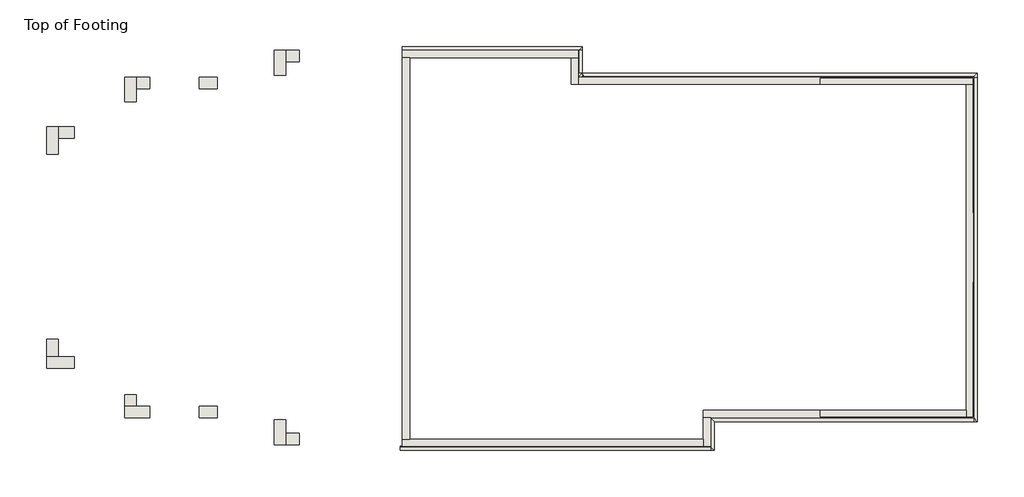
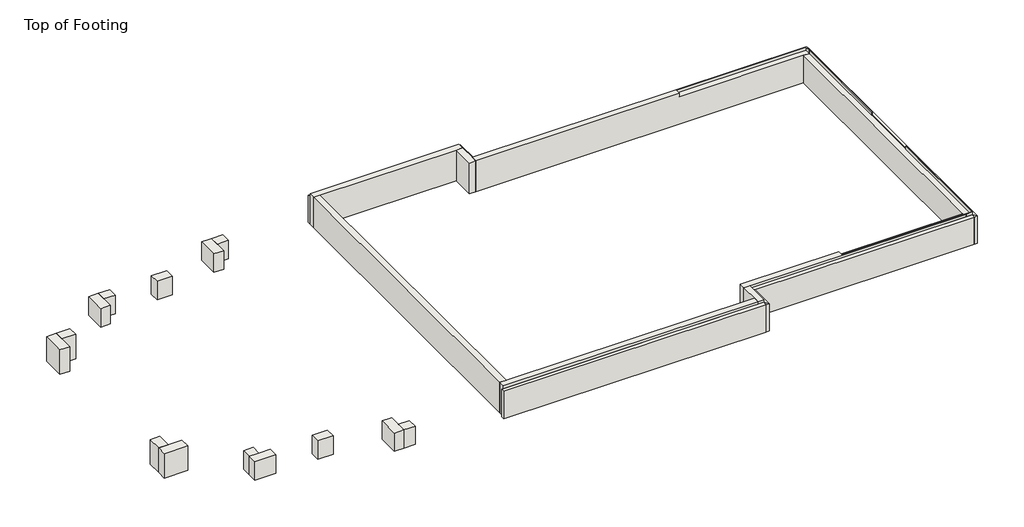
# One storey: 29 walls.
"""IFC4 building model written with IfcOpenShell, lengths in millimetres."""

from ifc_helpers import new_model, si_unit, frame, origin, place, context, project, spatial, polyline, outline, extrude, faceted_brep, element, save

model = new_model("IFC4")

# Units and contexts
model_context = context("Model", 3, world=origin())
ifc_project = project(units=[si_unit("LENGTHUNIT", "METRE", prefix="MILLI")], contexts=[model_context])

# Site, building, storey
site = spatial("IfcSite", under=ifc_project)
building = spatial("IfcBuilding", under=site)
storey = spatial("IfcBuildingStorey", under=building, Name="Top of Footing", Elevation=-1016.0)

# Walls
placement = place(None, origin())
element("IfcWall", 1, ObjectType="12\" Brick", at=placement, inside=storey, context=model_context, shape_type="Brep", body=[
    faceted_brep([(3404.7670833, 13199.4420284, -1016.0), (3404.7670833, 13618.2499284, -1016.0), (3404.7670833, 13923.0499284, -1016.0), (3404.7670833, 13923.0499284, -203.2), (3404.7670833, 13618.2499284, -203.2), (3404.7670833, 13199.4420284, -203.2), (3099.9670833, 13199.4420284, -1016.0), (3099.9670833, 13199.4420284, -203.2), (3099.9670833, 13923.0499284, -203.2), (3099.9670833, 13923.0499284, -1016.0)], [[[0, 1, 2, 3, 4, 5]], [[6, 7, 8, 9]], [[2, 1, 0, 6, 9]], [[5, 4, 3, 8, 7]], [[0, 5, 7, 6]], [[3, 2, 9, 8]]]),
])
element("IfcWall", 2, ObjectType="12\" Brick", at=placement, inside=storey, context=model_context, shape_type="SweptSolid", body=[
    extrude(outline(polyline([(3833.6206833, 13618.2499284), (3404.7670833, 13618.2499284), (3404.7670833, 13923.0499284), (3833.6206833, 13923.0499284), (3833.6206833, 13618.2499284)])), frame((0.0, 0.0, -1016.0), z_axis=(0.0, 0.0, 1.0), x_axis=(1.0, 0.0, 0.0)), (0.0, 0.0, 1.0), 812.8),
])
element("IfcWall", 3, ObjectType="12\" Brick", at=placement, inside=storey, context=model_context, shape_type="Brep", body=[
    faceted_brep([(3833.6206833, 7827.0499284, -1016.0), (3404.7670833, 7827.0499284, -1016.0), (3099.9670833, 7827.0499284, -1016.0), (3099.9670833, 7827.0499284, -203.2), (3404.7670833, 7827.0499284, -203.2), (3833.6206833, 7827.0499284, -203.2), (3833.6206833, 7522.2499284, -1016.0), (3833.6206833, 7522.2499284, -203.2), (3099.9670833, 7522.2499284, -203.2), (3099.9670833, 7522.2499284, -1016.0)], [[[0, 1, 2, 3, 4, 5]], [[6, 7, 8, 9]], [[2, 1, 0, 6, 9]], [[5, 4, 3, 8, 7]], [[0, 5, 7, 6]], [[3, 2, 9, 8]]]),
])
element("IfcWall", 4, ObjectType="12\" Brick", at=placement, inside=storey, context=model_context, shape_type="SweptSolid", body=[
    extrude(outline(polyline([(3404.7670833, 8281.8115284), (3404.7670833, 7827.0499284), (3099.9670833, 7827.0499284), (3099.9670833, 8281.8115284), (3404.7670833, 8281.8115284)])), frame((0.0, 0.0, -1016.0), z_axis=(0.0, 0.0, 1.0), x_axis=(1.0, 0.0, 0.0)), (0.0, 0.0, 1.0), 812.8),
])
element("IfcWall", 5, ObjectType="12\" Brick", at=placement, inside=storey, context=model_context, shape_type="Brep", body=[
    faceted_brep([(5487.5670833, 14585.4819284, -1016.0), (5487.5670833, 14939.0499284, -1016.0), (5487.5670833, 15243.8499284, -1016.0), (5487.5670833, 15243.8499284, -406.4), (5487.5670833, 14939.0499284, -406.4), (5487.5670833, 14585.4819284, -406.4), (5182.7670833, 14585.4819284, -1016.0), (5182.7670833, 14585.4819284, -406.4), (5182.7670833, 15243.8499284, -406.4), (5182.7670833, 15243.8499284, -1016.0)], [[[0, 1, 2, 3, 4, 5]], [[6, 7, 8, 9]], [[2, 1, 0, 6, 9]], [[5, 4, 3, 8, 7]], [[0, 5, 7, 6]], [[3, 2, 9, 8]]]),
])
element("IfcWall", 6, ObjectType="12\" Brick", at=placement, inside=storey, context=model_context, shape_type="SweptSolid", body=[
    extrude(outline(polyline([(5841.1350833, 14939.0499284), (5487.5670833, 14939.0499284), (5487.5670833, 15243.8499284), (5841.1350833, 15243.8499284), (5841.1350833, 14939.0499284)])), frame((0.0, 0.0, -1016.0), z_axis=(0.0, 0.0, 1.0), x_axis=(1.0, 0.0, 0.0)), (0.0, 0.0, 1.0), 609.6),
])
element("IfcWall", 7, ObjectType="12\" Brick", at=placement, inside=storey, context=model_context, shape_type="Brep", body=[
    faceted_brep([(5841.1350833, 6506.2499284, -1016.0), (5487.5670833, 6506.2499284, -1016.0), (5182.7670833, 6506.2499284, -1016.0), (5182.7670833, 6506.2499284, -406.4), (5487.5670833, 6506.2499284, -406.4), (5841.1350833, 6506.2499284, -406.4), (5841.1350833, 6201.4499284, -1016.0), (5841.1350833, 6201.4499284, -406.4), (5182.7670833, 6201.4499284, -406.4), (5182.7670833, 6201.4499284, -1016.0)], [[[0, 1, 2, 3, 4, 5]], [[6, 7, 8, 9]], [[2, 1, 0, 6, 9]], [[5, 4, 3, 8, 7]], [[0, 5, 7, 6]], [[3, 2, 9, 8]]]),
])
element("IfcWall", 8, ObjectType="12\" Brick", at=placement, inside=storey, context=model_context, shape_type="SweptSolid", body=[
    extrude(outline(polyline([(5487.5670833, 6811.0499284), (5487.5670833, 6506.2499284), (5182.7670833, 6506.2499284), (5182.7670833, 6811.0499284), (5487.5670833, 6811.0499284)])), frame((0.0, 0.0, -1016.0), z_axis=(0.0, 0.0, 1.0), x_axis=(1.0, 0.0, 0.0)), (0.0, 0.0, 1.0), 609.6),
])
element("IfcWall", 9, ObjectType="12\" Brick", at=placement, inside=storey, context=model_context, shape_type="Brep", body=[
    faceted_brep([(9145.1670833, 6148.6179284, -1016.0), (9145.1670833, 5490.2499284, -1016.0), (9145.1670833, 5490.2499284, -406.4), (9145.1670833, 6148.6179284, -406.4), (9449.9670833, 6148.6179284, -1016.0), (9449.9670833, 6148.6179284, -406.4), (9449.9670833, 5795.0499284, -406.4), (9449.9670833, 5490.2499284, -406.4), (9449.9670833, 5490.2499284, -1016.0), (9449.9670833, 5795.0499284, -1016.0)], [[[0, 1, 2, 3]], [[4, 5, 6, 7, 8, 9]], [[1, 0, 4, 9, 8]], [[3, 2, 7, 6, 5]], [[0, 3, 5, 4]], [[2, 1, 8, 7]]]),
])
element("IfcWall", 10, ObjectType="12\" Brick", at=placement, inside=storey, context=model_context, shape_type="SweptSolid", body=[
    extrude(outline(polyline([(9803.5350833, 5490.2499284), (9449.9670833, 5490.2499284), (9449.9670833, 5795.0499284), (9803.5350833, 5795.0499284), (9803.5350833, 5490.2499284)])), frame((0.0, 0.0, -1016.0), z_axis=(0.0, 0.0, 1.0), x_axis=(1.0, 0.0, 0.0)), (0.0, 0.0, 1.0), 609.6),
])
element("IfcWall", 11, ObjectType="12\" Brick", at=placement, inside=storey, context=model_context, shape_type="SweptSolid", body=[
    extrude(outline(polyline([(7637.3214833, 6201.4499284), (7156.6518833, 6201.4499284), (7156.6518833, 6506.2499284), (7637.3214833, 6506.2499284), (7637.3214833, 6201.4499284)])), frame((0.0, 0.0, -1016.0), z_axis=(0.0, 0.0, 1.0), x_axis=(1.0, 0.0, 0.0)), (0.0, 0.0, 1.0), 609.6),
])
element("IfcWall", 12, ObjectType="12\" Brick", at=placement, inside=storey, context=model_context, shape_type="Brep", body=[
    faceted_brep([(9449.9670833, 15296.6819284, -1016.0), (9449.9670833, 15650.2499284, -1016.0), (9449.9670833, 15955.0499284, -1016.0), (9449.9670833, 15955.0499284, -406.4), (9449.9670833, 15650.2499284, -406.4), (9449.9670833, 15296.6819284, -406.4), (9145.1670833, 15296.6819284, -1016.0), (9145.1670833, 15296.6819284, -406.4), (9145.1670833, 15955.0499284, -406.4), (9145.1670833, 15955.0499284, -1016.0)], [[[0, 1, 2, 3, 4, 5]], [[6, 7, 8, 9]], [[2, 1, 0, 6, 9]], [[5, 4, 3, 8, 7]], [[0, 5, 7, 6]], [[3, 2, 9, 8]]]),
])
element("IfcWall", 13, ObjectType="12\" Brick", at=placement, inside=storey, context=model_context, shape_type="SweptSolid", body=[
    extrude(outline(polyline([(9803.5350833, 15650.2499284), (9449.9670833, 15650.2499284), (9449.9670833, 15955.0499284), (9803.5350833, 15955.0499284), (9803.5350833, 15650.2499284)])), frame((0.0, 0.0, -1016.0), z_axis=(0.0, 0.0, 1.0), x_axis=(1.0, 0.0, 0.0)), (0.0, 0.0, 1.0), 609.6),
])
element("IfcWall", 14, ObjectType="12\" Brick", at=placement, inside=storey, context=model_context, shape_type="SweptSolid", body=[
    extrude(outline(polyline([(7637.3214833, 14939.0499284), (7156.6518833, 14939.0499284), (7156.6518833, 15243.8499284), (7637.3214833, 15243.8499284), (7637.3214833, 14939.0499284)])), frame((0.0, 0.0, -1016.0), z_axis=(0.0, 0.0, 1.0), x_axis=(1.0, 0.0, 0.0)), (0.0, 0.0, 1.0), 609.6),
])
element("IfcWall", 15, ObjectType="Brick Veneer", at=placement, inside=storey, context=model_context, shape_type="Brep", body=[
    faceted_brep([(12548.7670833, 15955.0499284, -1016.0), (17222.3670833, 15955.0499284, -1016.0), (17323.9670833, 15955.0499284, -1016.0), (17323.9670833, 15955.0499284, -107.7922288), (17226.7749916, 15955.0499284, -88.9), (17222.3670833, 15955.0499284, -88.9), (12548.7670833, 15955.0499284, -88.9), (17323.9670833, 16056.6499284, -1016.0), (12548.7670833, 16056.6499284, -1016.0), (12548.7670833, 16056.6499284, -107.7922288), (17323.9670833, 16056.6499284, -107.7922288), (17226.7749916, 15959.4578368, -88.9), (12548.7670833, 15959.4578368, -88.9)], [[[0, 1, 2, 3, 4, 5, 6]], [[7, 8, 9, 10]], [[2, 1, 0, 8, 7]], [[6, 5, 4, 11, 12]], [[0, 6, 12, 9, 8]], [[2, 7, 10, 3]], [[11, 10, 9, 12]], [[10, 11, 4, 3]]]),
])
element("IfcWall", 16, ObjectType="Brick Veneer", at=placement, inside=storey, context=model_context, shape_type="Brep", body=[
    faceted_brep([(17222.3670833, 15955.0499284, -1016.0), (17222.3670833, 15243.8499284, -1016.0), (17222.3670833, 15243.8499284, -88.9), (17222.3670833, 15248.2578368, -88.9), (17222.3670833, 15362.6918636, -111.1437215), (17222.3670833, 15367.0156051, -88.9), (17222.3670833, 15955.0499284, -88.9), (17323.9670833, 15243.8499284, -1016.0), (17323.9670833, 15955.0499284, -1016.0), (17323.9670833, 15955.0499284, -107.7922288), (17323.9670833, 15363.3433278, -107.7922288), (17323.9670833, 15362.6918636, -111.1437215), (17323.9670833, 15345.4499284, -107.7922288), (17323.9670833, 15243.8499284, -107.7922288), (17226.7749916, 15243.8499284, -88.9), (17226.7749916, 15248.2578368, -88.9), (17226.7749916, 15955.0499284, -88.9), (17226.7749916, 15367.0156051, -88.9)], [[[0, 1, 2, 3, 4, 5, 6]], [[7, 8, 9, 10, 11, 12, 13]], [[1, 0, 8, 7]], [[2, 14, 15, 3]], [[16, 6, 5, 17]], [[0, 6, 16, 9, 8]], [[2, 1, 7, 13, 14]], [[9, 16, 17, 10]], [[14, 13, 12, 15]], [[4, 11, 10, 17, 5]], [[11, 4, 3, 15, 12]]]),
])
element("IfcWall", 17, ObjectType="Brick Veneer", at=placement, inside=storey, context=model_context, shape_type="Brep", body=[
    faceted_brep([(17222.3670833, 15243.8499284, -1016.0), (27712.5670833, 15243.8499284, -1016.0), (27814.1670833, 15243.8499284, -1016.0), (27814.1670833, 15243.8499284, -107.7922288), (27716.9749916, 15243.8499284, -88.9), (27712.5670833, 15243.8499284, -88.9), (17345.53276, 15243.8499284, -88.9), (17341.2090185, 15243.8499284, -111.1437215), (17323.9670833, 15243.8499284, -107.7922288), (17226.7749916, 15243.8499284, -88.9), (17222.3670833, 15243.8499284, -88.9), (27814.1670833, 15345.4499284, -1016.0), (17222.3670833, 15345.4499284, -1016.0), (17222.3670833, 15345.4499284, -107.7922288), (17323.9670833, 15345.4499284, -107.7922288), (17341.2090185, 15345.4499284, -111.1437215), (17341.8604827, 15345.4499284, -107.7922288), (27814.1670833, 15345.4499284, -107.7922288), (17222.3670833, 15248.2578368, -88.9), (17226.7749916, 15248.2578368, -88.9), (27716.9749916, 15248.2578368, -88.9), (17345.53276, 15248.2578368, -88.9)], [[[0, 1, 2, 3, 4, 5, 6, 7, 8, 9, 10]], [[11, 12, 13, 14, 15, 16, 17]], [[2, 1, 0, 12, 11]], [[18, 10, 9, 19]], [[4, 20, 21, 6, 5]], [[0, 10, 18, 13, 12]], [[2, 11, 17, 3]], [[20, 17, 16, 21]], [[13, 18, 19, 14]], [[17, 20, 4, 3]], [[15, 7, 6, 21, 16]], [[7, 15, 14, 19, 9, 8]]]),
])
element("IfcWall", 18, ObjectType="Brick Veneer", at=placement, inside=storey, context=model_context, shape_type="Brep", body=[
    faceted_brep([(27712.5670833, 15243.8499284, -1016.0), (27712.5670833, 6201.4499284, -1016.0), (27712.5670833, 6099.8499284, -1016.0), (27712.5670833, 6099.8499284, -107.7922288), (27712.5670833, 6197.0420201, -88.9), (27712.5670833, 6201.4499284, -88.9), (27712.5670833, 15243.8499284, -88.9), (27814.1670833, 6099.8499284, -1016.0), (27814.1670833, 15243.8499284, -1016.0), (27814.1670833, 15243.8499284, -107.7922288), (27814.1670833, 6099.8499284, -107.7922288), (27716.9749916, 6197.0420201, -88.9), (27716.9749916, 15243.8499284, -88.9)], [[[0, 1, 2, 3, 4, 5, 6]], [[7, 8, 9, 10]], [[2, 1, 0, 8, 7]], [[6, 5, 4, 11, 12]], [[0, 6, 12, 9, 8]], [[2, 7, 10, 3]], [[11, 10, 9, 12]], [[10, 11, 4, 3]]]),
])
element("IfcWall", 19, ObjectType="Brick Veneer", at=placement, inside=storey, context=model_context, shape_type="SweptSolid", body=[
    extrude(outline(polyline([(6201.4499284, -88.9), (6201.4499284, -1016.0), (6099.8499284, -1016.0), (6099.8499284, -107.7922288), (6197.0420201, -88.9), (6201.4499284, -88.9)])), frame((20727.5670833, 0.0, 0.0), z_axis=(1.0, 0.0, 0.0), x_axis=(0.0, 1.0, 0.0)), (0.0, 0.0, 1.0), 6985.0),
])
element("IfcWall", 20, ObjectType="Brick Veneer", at=placement, inside=storey, context=model_context, shape_type="Brep", body=[
    faceted_brep([(20727.5670833, 6201.4499284, -1016.0), (20727.5670833, 5439.4499284, -1016.0), (20727.5670833, 5337.8499284, -1016.0), (20727.5670833, 5337.8499284, -107.7922288), (20727.5670833, 5435.0420201, -88.9), (20727.5670833, 5439.4499284, -88.9), (20727.5670833, 6201.4499284, -88.9), (20829.1670833, 5337.8499284, -1016.0), (20829.1670833, 6201.4499284, -1016.0), (20829.1670833, 6201.4499284, -107.7922288), (20829.1670833, 5337.8499284, -107.7922288), (20731.9749916, 5435.0420201, -88.9), (20731.9749916, 6201.4499284, -88.9)], [[[0, 1, 2, 3, 4, 5, 6]], [[7, 8, 9, 10]], [[2, 1, 0, 8, 7]], [[6, 5, 4, 11, 12]], [[0, 6, 12, 9, 8]], [[2, 7, 10, 3]], [[11, 10, 9, 12]], [[10, 11, 4, 3]]]),
])
element("IfcWall", 21, ObjectType="Brick Veneer", at=placement, inside=storey, context=model_context, shape_type="SweptSolid", body=[
    extrude(outline(polyline([(5439.4499284, -88.9), (5439.4499284, -1016.0), (5337.8499284, -1016.0), (5337.8499284, -107.7922288), (5435.0420201, -88.9), (5439.4499284, -88.9)])), frame((12493.2045833, 0.0, 0.0), z_axis=(1.0, 0.0, 0.0), x_axis=(0.0, 1.0, 0.0)), (0.0, 0.0, 1.0), 8234.3625),
])
element("IfcWall", 22, ObjectType="Exterior Masonry", at=placement, inside=storey, context=model_context, shape_type="Brep", body=[
    faceted_brep([(12548.7670833, 15761.3749284, -1016.0), (12742.4420833, 15761.3749284, -1016.0), (17028.6920833, 15761.3749284, -1016.0), (17222.3670833, 15761.3749284, -1016.0), (17222.3670833, 15761.3749284, 0.0), (17028.6920833, 15761.3749284, 0.0), (12742.4420833, 15761.3749284, 0.0), (12548.7670833, 15761.3749284, 0.0), (12548.7670833, 15955.0499284, -1016.0), (12548.7670833, 15955.0499284, 0.0), (17222.3670833, 15955.0499284, 0.0), (17222.3670833, 15955.0499284, -1016.0)], [[[0, 1, 2, 3, 4, 5, 6, 7]], [[8, 9, 10, 11]], [[3, 2, 1, 0, 8, 11]], [[7, 6, 5, 4, 10, 9]], [[4, 3, 11, 10]], [[0, 7, 9, 8]]]),
])
element("IfcWall", 23, ObjectType="Exterior Masonry", at=placement, inside=storey, context=model_context, shape_type="Brep", body=[
    faceted_brep([(17028.6920833, 15761.3749284, -1016.0), (17028.6920833, 15050.1749284, -1016.0), (17028.6920833, 15050.1749284, 0.0), (17028.6920833, 15761.3749284, 0.0), (17222.3670833, 15761.3749284, -1016.0), (17222.3670833, 15761.3749284, 0.0), (17222.3670833, 15243.8499284, 0.0), (17222.3670833, 15050.1749284, 0.0), (17222.3670833, 15050.1749284, -1016.0), (17222.3670833, 15243.8499284, -1016.0), (17222.3670833, 15345.4499284, -1016.0)], [[[0, 1, 2, 3]], [[4, 5, 6, 7, 8, 9, 10]], [[1, 0, 4, 10, 9, 8]], [[3, 2, 7, 6, 5]], [[0, 3, 5, 4]], [[1, 8, 7, 2]]]),
])
element("IfcWall", 24, ObjectType="Exterior Masonry", at=placement, inside=storey, context=model_context, shape_type="Brep", body=[
    faceted_brep([(17222.3670833, 15050.1749284, -1016.0), (27518.8920833, 15050.1749284, -1016.0), (27712.5670833, 15050.1749284, -1016.0), (27712.5670833, 15050.1749284, 0.0), (27699.8670833, 15050.1749284, 0.0), (27699.8670833, 15050.1749284, -101.6), (27518.8920833, 15050.1749284, -101.6), (23623.1670833, 15050.1749284, -101.6), (23623.1670833, 15050.1749284, 0.0), (17222.3670833, 15050.1749284, 0.0), (27712.5670833, 15243.8499284, -1016.0), (17323.9670833, 15243.8499284, -1016.0), (17222.3670833, 15243.8499284, -1016.0), (17222.3670833, 15243.8499284, -88.9), (17222.3670833, 15243.8499284, 0.0), (27712.5670833, 15243.8499284, 0.0), (23623.1670833, 15231.1499284, 0.0), (27699.8670833, 15231.1499284, 0.0), (27699.8670833, 15231.1499284, -101.6), (23623.1670833, 15231.1499284, -101.6)], [[[0, 1, 2, 3, 4, 5, 6, 7, 8, 9]], [[10, 11, 12, 13, 14, 15]], [[2, 1, 0, 12, 11, 10]], [[15, 14, 9, 8, 16, 17, 4, 3]], [[3, 2, 10, 15]], [[18, 19, 7, 6, 5]], [[17, 18, 5, 4]], [[19, 16, 8, 7]], [[19, 18, 17, 16]], [[9, 14, 13, 12, 0]]]),
])
element("IfcWall", 25, ObjectType="Exterior Masonry", at=placement, inside=storey, context=model_context, shape_type="Brep", body=[
    faceted_brep([(27518.8920833, 15050.1749284, -1016.0), (27518.8920833, 6395.1249284, -1016.0), (27518.8920833, 6201.4499284, -1016.0), (27518.8920833, 6201.4499284, 0.0), (27518.8920833, 6214.1499284, 0.0), (27518.8920833, 6214.1499284, -101.6), (27518.8920833, 6395.1249284, -101.6), (27518.8920833, 15050.1749284, -101.6), (27712.5670833, 6201.4499284, -1016.0), (27712.5670833, 15050.1749284, -1016.0), (27712.5670833, 15050.1749284, 0.0), (27712.5670833, 11649.7499284, 0.0), (27712.5670833, 11649.7499284, -101.6), (27712.5670833, 9795.5499284, -101.6), (27712.5670833, 9795.5499284, 0.0), (27712.5670833, 6201.4499284, 0.0), (27699.8670833, 9795.5499284, 0.0), (27699.8670833, 6214.1499284, 0.0), (27699.8670833, 15050.1749284, 0.0), (27699.8670833, 11649.7499284, 0.0), (27699.8670833, 15050.1749284, -101.6), (27699.8670833, 6214.1499284, -101.6), (27699.8670833, 9795.5499284, -101.6), (27699.8670833, 11649.7499284, -101.6)], [[[0, 1, 2, 3, 4, 5, 6, 7]], [[8, 9, 10, 11, 12, 13, 14, 15]], [[2, 1, 0, 9, 8]], [[3, 15, 14, 16, 17, 4]], [[11, 10, 18, 19]], [[3, 2, 8, 15]], [[10, 9, 0, 7, 20, 18]], [[21, 22, 13, 12, 23, 20, 7, 6, 5]], [[23, 19, 18, 20]], [[17, 21, 5, 4]], [[19, 23, 12, 11]], [[22, 16, 14, 13]], [[22, 21, 17, 16]]]),
])
element("IfcWall", 26, ObjectType="Exterior Masonry", at=placement, inside=storey, context=model_context, shape_type="Brep", body=[
    faceted_brep([(27518.8920833, 6395.1249284, -1016.0), (20533.8920833, 6395.1249284, -1016.0), (20533.8920833, 6395.1249284, 0.0), (23623.1670833, 6395.1249284, 0.0), (23623.1670833, 6395.1249284, -101.6), (27518.8920833, 6395.1249284, -101.6), (20533.8920833, 6201.4499284, -1016.0), (20727.5670833, 6201.4499284, -1016.0), (20829.1670833, 6201.4499284, -1016.0), (27518.8920833, 6201.4499284, -1016.0), (27518.8920833, 6201.4499284, 0.0), (20727.5670833, 6201.4499284, 0.0), (20533.8920833, 6201.4499284, 0.0), (27518.8920833, 6214.1499284, 0.0), (23623.1670833, 6214.1499284, 0.0), (27518.8920833, 6214.1499284, -101.6), (23623.1670833, 6214.1499284, -101.6)], [[[0, 1, 2, 3, 4, 5]], [[6, 7, 8, 9, 10, 11, 12]], [[1, 0, 9, 8, 7, 6]], [[12, 11, 10, 13, 14, 3, 2]], [[2, 1, 6, 12]], [[10, 9, 0, 5, 15, 13]], [[4, 16, 15, 5]], [[16, 14, 13, 15]], [[14, 16, 4, 3]]]),
])
element("IfcWall", 27, ObjectType="Exterior Masonry", at=placement, inside=storey, context=model_context, shape_type="Brep", body=[
    faceted_brep([(20533.8920833, 6201.4499284, -1016.0), (20533.8920833, 5633.1249284, -1016.0), (20533.8920833, 5439.4499284, -1016.0), (20533.8920833, 5439.4499284, 0.0), (20533.8920833, 5528.3499284, 0.0), (20533.8920833, 6201.4499284, 0.0), (20533.8920833, 6201.4499284, -19.05), (20727.5670833, 6201.4499284, -1016.0), (20727.5670833, 6201.4499284, -88.9), (20727.5670833, 6201.4499284, 0.0), (20727.5670833, 5439.4499284, 0.0), (20727.5670833, 5439.4499284, -1016.0), (20727.5670833, 6099.8499284, -1016.0), (20638.6670833, 6201.4499284, 0.0)], [[[0, 1, 2, 3, 4, 5, 6]], [[7, 8, 9, 10, 11, 12]], [[2, 1, 0, 7, 12, 11]], [[5, 4, 3, 10, 9, 13]], [[0, 6, 5, 13, 9, 8, 7]], [[3, 2, 11, 10]]]),
])
element("IfcWall", 28, ObjectType="Exterior Masonry", at=placement, inside=storey, context=model_context, shape_type="Brep", body=[
    faceted_brep([(20533.8920833, 5633.1249284, -1016.0), (12742.4420833, 5633.1249284, -1016.0), (12548.7670833, 5633.1249284, -1016.0), (12548.7670833, 5633.1249284, 0.0), (12742.4420833, 5633.1249284, 0.0), (20533.8920833, 5633.1249284, 0.0), (20533.8920833, 5439.4499284, -1016.0), (20533.8920833, 5439.4499284, 0.0), (12548.7670833, 5439.4499284, 0.0), (12548.7670833, 5439.4499284, -1016.0)], [[[0, 1, 2, 3, 4, 5]], [[6, 7, 8, 9]], [[2, 1, 0, 6, 9]], [[5, 4, 3, 8, 7]], [[0, 5, 7, 6]], [[3, 2, 9, 8]]]),
])
element("IfcWall", 29, ObjectType="Exterior Masonry", at=placement, inside=storey, context=model_context, shape_type="Brep", body=[
    faceted_brep([(12742.4420833, 5633.1249284, -1016.0), (12742.4420833, 15761.3749284, -1016.0), (12742.4420833, 15761.3749284, 0.0), (12742.4420833, 5633.1249284, 0.0), (12548.7670833, 5633.1249284, -1016.0), (12548.7670833, 5633.1249284, -19.05), (12548.7670833, 5633.1249284, 0.0), (12548.7670833, 15761.3749284, 0.0), (12548.7670833, 15761.3749284, -19.05), (12548.7670833, 15761.3749284, -1016.0)], [[[0, 1, 2, 3]], [[4, 5, 6, 7, 8, 9]], [[1, 0, 4, 9]], [[3, 2, 7, 6]], [[2, 1, 9, 8, 7]], [[0, 3, 6, 5, 4]]]),
])

save(model, "model.ifc")
